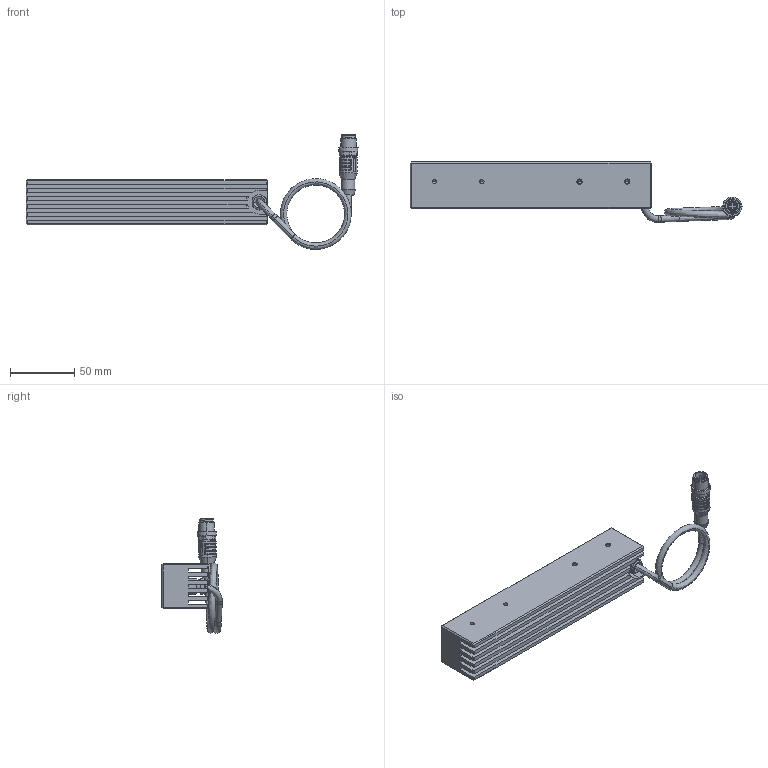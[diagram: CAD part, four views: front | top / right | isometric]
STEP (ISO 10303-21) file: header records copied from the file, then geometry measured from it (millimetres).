
FILE_DESCRIPTION (( 'STEP AP203' ), '1' );
FILE_NAME ('PL-BAR-1x35.STEP', '2024-11-22T14:43:00', ( '' ), ( '' ), 'SwSTEP 2.0', 'SolidWorks 2024', '' );
FILE_SCHEMA (( 'CONFIG_CONTROL_DESIGN' ));
Length unit declared in the file: millimetre
Products named in the file (14): F16557; F16551; Luc1x; vijak; PCB16; knurl nut; PL-BAR-1x35; sestav konektor; leca_Lisa3; ohisje konektor; uvodnica; ledika; kabel coiled; pokrov1x
Assembly tree (33 placements, depth 3):
  PL-BAR-1x35
    Luc1x
    pokrov1x
    uvodnica
    PCB16
    leca_Lisa3  x16
      F16557
      F16551
      ledika
    vijak  x6
    sestav konektor
      kabel coiled
      ohisje konektor
      knurl nut
Bounding box: 258.52 x 47.1 x 89.39 mm (x, y, z)
Volume: 178062.1 mm3; surface area: 104652 mm2
Topology: 61 solids, 61 shells, 3970 faces, 11015 edges, 7197 vertices
Faces by surface type: cone 1683, plane 1316, cylinder 791, bspline 130, sphere 32, torus 18
Entity records: 39148 total; most frequent: CARTESIAN_POINT 12056, ORIENTED_EDGE 5352, DIRECTION 5083, EDGE_CURVE 2676, AXIS2_PLACEMENT_3D 1981, VERTEX_POINT 1717, EDGE_LOOP 1219, VECTOR 1121
